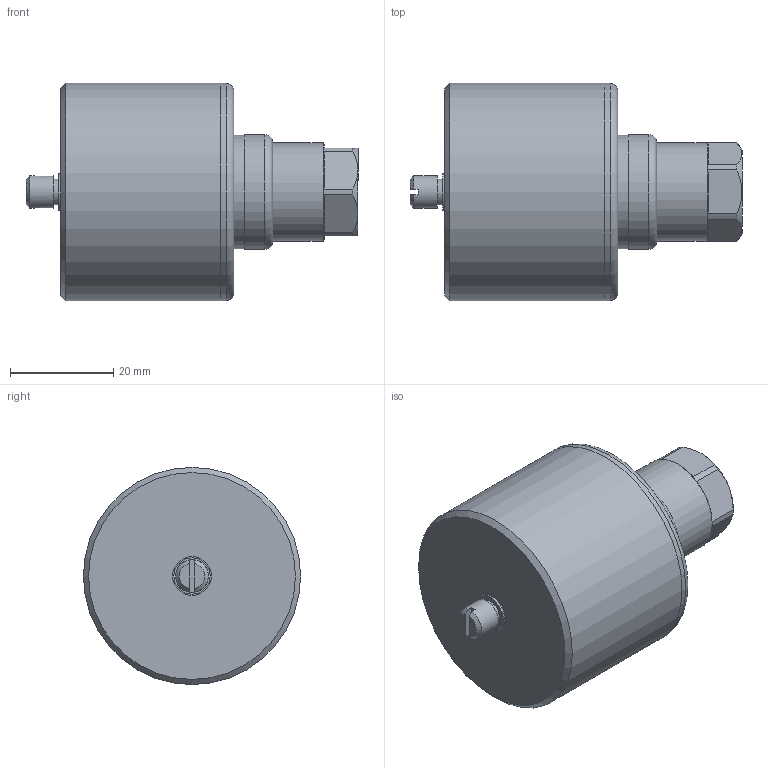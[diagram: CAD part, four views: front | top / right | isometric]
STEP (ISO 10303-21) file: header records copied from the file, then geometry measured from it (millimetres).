
FILE_DESCRIPTION(/* description */ (''),/* implementation_level */ '2;1');
FILE_NAME(/* name */ 'Z:\Engineering\Drawings\3D Library\Assemblies\Website\Triaxial Top\Premium\HS-173 Round PUR\HS-173RXXX0102.stp',/* time_stamp */ '2023-03-25T19:56:19+00:00',/* author */ ('Ricardo.Peneda'),/* organization */ (''),/* preprocessor_version */ 'ST-DEVELOPER v18.1',/* originating_system */ 'Autodesk Inventor 2021',/* authorisation */ '');
FILE_SCHEMA (('AUTOMOTIVE_DESIGN { 1 0 10303 214 3 1 1 }'));
Length unit declared in the file: inch
Products named in the file (1): HS-173RXXX0102_Shrinkwrap_1
Bounding box: 64.2 x 42 x 42 mm (x, y, z)
Volume: 50329.8 mm3; surface area: 13889.8 mm2
Topology: 5 solids, 5 shells, 87 faces, 216 edges, 153 vertices
Faces by surface type: plane 38, cylinder 29, cone 16, sphere 2, torus 2
Full cylindrical faces by diameter (mm): 4.914 x2, 5.359 x1, 6.34 x2, 7.027 x1, 7.5 x1, 9 x1, 12 x2, 14 x1, 15 x2, 18 x1, 19 x1, 19.95 x1, 20 x1, 22 x1, 22.2 x1, 40 x1, 42 x2
Entity records: 2804 total; most frequent: DIRECTION 500, CARTESIAN_POINT 495, ORIENTED_EDGE 428, AXIS2_PLACEMENT_3D 218, EDGE_CURVE 214, VERTEX_POINT 153, CIRCLE 130, EDGE_LOOP 109
